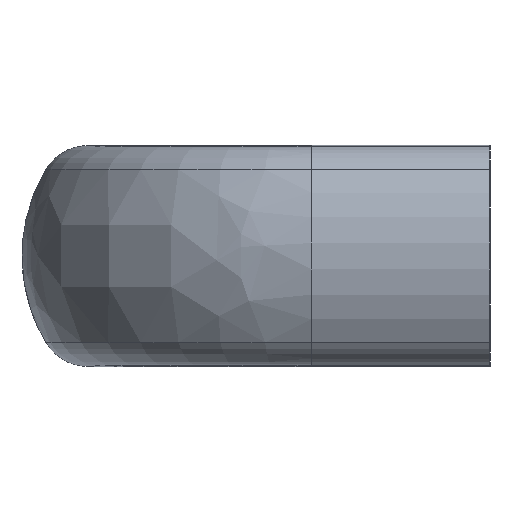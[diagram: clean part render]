
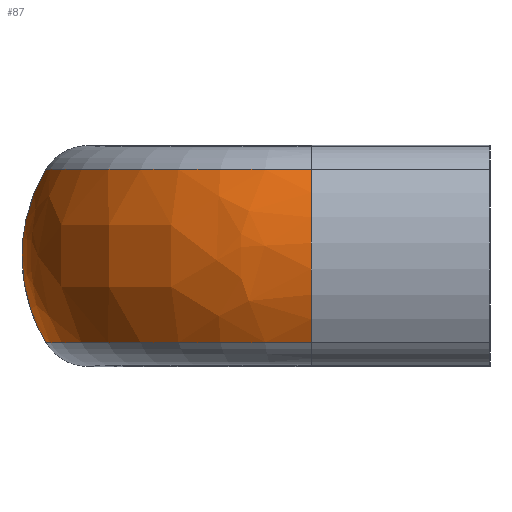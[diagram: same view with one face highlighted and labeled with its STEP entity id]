
A CAD part, left-side view. The second image highlights one B-rep face of the part: STEP entity #87.
In plain terms, the highlighted free-form (B-spline) face has degree [3, 3] with [4, 4] control points.
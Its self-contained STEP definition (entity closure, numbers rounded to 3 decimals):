
#87 = ADVANCED_FACE( '', ( #155 ), #156, .T. );
#155 = FACE_OUTER_BOUND( '', #265, .T. );
#156 = ( BOUNDED_SURFACE(  )B_SPLINE_SURFACE( 3, 3, ( ( #268, #269, #270, #271 ), ( #272, #273, #274, #275 ), ( #276, #277, #278, #279 ), ( #280, #281, #282, #283 ) ), .UNSPECIFIED., .F., .F., .F. )B_SPLINE_SURFACE_WITH_KNOTS( ( 4, 4 ), ( 4, 4 ), ( 1.571, 3.142 ), ( -0.537, 0.537 ), .UNSPECIFIED. )GEOMETRIC_REPRESENTATION_ITEM(  )RATIONAL_B_SPLINE_SURFACE( ( ( 1., 0.805, 0.805, 1. ), ( 0.906, 0.729, 0.729, 0.906 ), ( 0.906, 0.729, 0.729, 0.906 ), ( 1., 0.805, 0.805, 1. ) ) )REPRESENTATION_ITEM( '' )SURFACE(  ) );
#265 = EDGE_LOOP( '', ( #477, #478, #479, #480, #481 ) );
#268 = CARTESIAN_POINT( '', ( -37., 52.189, 10.177 ) );
#269 = CARTESIAN_POINT( '', ( -55.27, 52.189, 10.177 ) );
#270 = CARTESIAN_POINT( '', ( -68.189, 39.27, 10.177 ) );
#271 = CARTESIAN_POINT( '', ( -68.189, 21., 10.177 ) );
#272 = CARTESIAN_POINT( '', ( -37., 56.02, 3.744 ) );
#273 = CARTESIAN_POINT( '', ( -57.514, 56.02, 3.744 ) );
#274 = CARTESIAN_POINT( '', ( -72.02, 41.514, 3.744 ) );
#275 = CARTESIAN_POINT( '', ( -72.02, 21., 3.744 ) );
#276 = CARTESIAN_POINT( '', ( -37., 56.02, -3.744 ) );
#277 = CARTESIAN_POINT( '', ( -57.514, 56.02, -3.744 ) );
#278 = CARTESIAN_POINT( '', ( -72.02, 41.514, -3.744 ) );
#279 = CARTESIAN_POINT( '', ( -72.02, 21., -3.744 ) );
#280 = CARTESIAN_POINT( '', ( -37., 52.189, -10.177 ) );
#281 = CARTESIAN_POINT( '', ( -55.27, 52.189, -10.177 ) );
#282 = CARTESIAN_POINT( '', ( -68.189, 39.27, -10.177 ) );
#283 = CARTESIAN_POINT( '', ( -68.189, 21., -10.177 ) );
#477 = ORIENTED_EDGE( '', *, *, #834, .T. );
#478 = ORIENTED_EDGE( '', *, *, #835, .F. );
#479 = ORIENTED_EDGE( '', *, *, #836, .F. );
#480 = ORIENTED_EDGE( '', *, *, #806, .T. );
#481 = ORIENTED_EDGE( '', *, *, #805, .T. );
#805 = EDGE_CURVE( '', #941, #942, #943, .T. );
#806 = EDGE_CURVE( '', #944, #941, #945, .T. );
#834 = EDGE_CURVE( '', #942, #994, #996, .T. );
#835 = EDGE_CURVE( '', #997, #994, #998, .T. );
#836 = EDGE_CURVE( '', #944, #997, #999, .T. );
#941 = VERTEX_POINT( '', #1149 );
#942 = VERTEX_POINT( '', #1150 );
#943 = B_SPLINE_CURVE_WITH_KNOTS( '', 3, ( #1151, #1152, #1153, #1154, #1155, #1156 ), .UNSPECIFIED., .F., .F., ( 4, 2, 4 ), ( 0., 0.5, 1. ), .UNSPECIFIED. );
#944 = VERTEX_POINT( '', #1157 );
#945 = B_SPLINE_CURVE_WITH_KNOTS( '', 3, ( #1158, #1159, #1160, #1161, #1162, #1163 ), .UNSPECIFIED., .F., .F., ( 4, 2, 4 ), ( 0., 0.5, 1. ), .UNSPECIFIED. );
#994 = VERTEX_POINT( '', #1246 );
#996 = CIRCLE( '', #1248, 31.189 );
#997 = VERTEX_POINT( '', #1249 );
#998 = CIRCLE( '', #1250, 19.889 );
#999 = CIRCLE( '', #1251, 31.189 );
#1149 = CARTESIAN_POINT( '', ( -37., 54.995, 0.043 ) );
#1150 = CARTESIAN_POINT( '', ( -37., 52.189, -10.184 ) );
#1151 = CARTESIAN_POINT( '', ( -37., 54.99, 0.043 ) );
#1152 = CARTESIAN_POINT( '', ( -37., 54.994, -1.745 ) );
#1153 = CARTESIAN_POINT( '', ( -37., 54.755, -3.533 ) );
#1154 = CARTESIAN_POINT( '', ( -37., 53.81, -6.981 ) );
#1155 = CARTESIAN_POINT( '', ( -37., 53.104, -8.641 ) );
#1156 = CARTESIAN_POINT( '', ( -37., 52.189, -10.177 ) );
#1157 = CARTESIAN_POINT( '', ( -37., 52.188, 10.185 ) );
#1158 = CARTESIAN_POINT( '', ( -37., 52.189, 10.177 ) );
#1159 = CARTESIAN_POINT( '', ( -37., 53.097, 8.653 ) );
#1160 = CARTESIAN_POINT( '', ( -37., 53.799, 7.008 ) );
#1161 = CARTESIAN_POINT( '', ( -37., 54.744, 3.589 ) );
#1162 = CARTESIAN_POINT( '', ( -37., 54.986, 1.816 ) );
#1163 = CARTESIAN_POINT( '', ( -37., 54.99, 0.043 ) );
#1246 = CARTESIAN_POINT( '', ( -68.189, 21., -10.177 ) );
#1248 = AXIS2_PLACEMENT_3D( '', #1481, #1482, #1483 );
#1249 = CARTESIAN_POINT( '', ( -68.189, 21., 10.177 ) );
#1250 = AXIS2_PLACEMENT_3D( '', #1484, #1485, #1486 );
#1251 = AXIS2_PLACEMENT_3D( '', #1487, #1488, #1489 );
#1481 = CARTESIAN_POINT( '', ( -37., 21., -10.177 ) );
#1482 = DIRECTION( '', ( 0., 0., 1. ) );
#1483 = DIRECTION( '', ( 1., 0., 0. ) );
#1484 = CARTESIAN_POINT( '', ( -51.101, 21., 0. ) );
#1485 = DIRECTION( '', ( 0., -1., 0. ) );
#1486 = DIRECTION( '', ( 0., 0., 1. ) );
#1487 = CARTESIAN_POINT( '', ( -37., 21., 10.177 ) );
#1488 = DIRECTION( '', ( 0., 0., 1. ) );
#1489 = DIRECTION( '', ( 1., 0., 0. ) );
